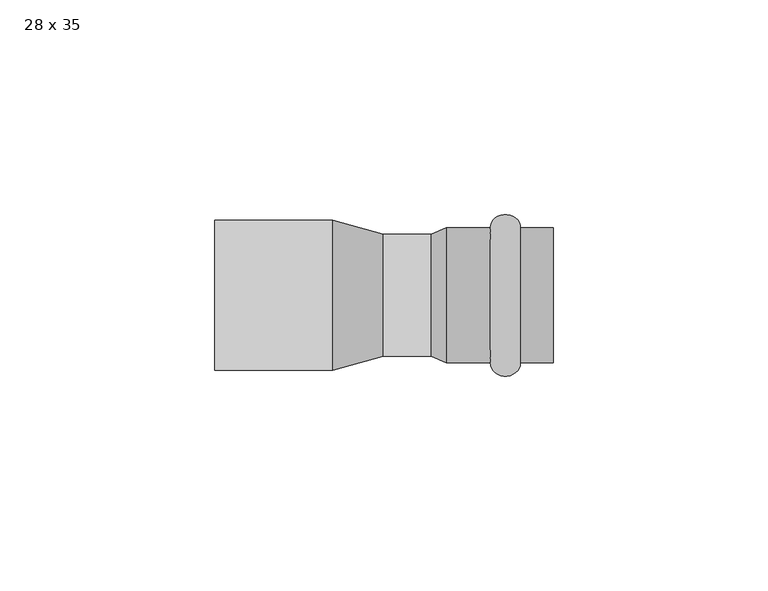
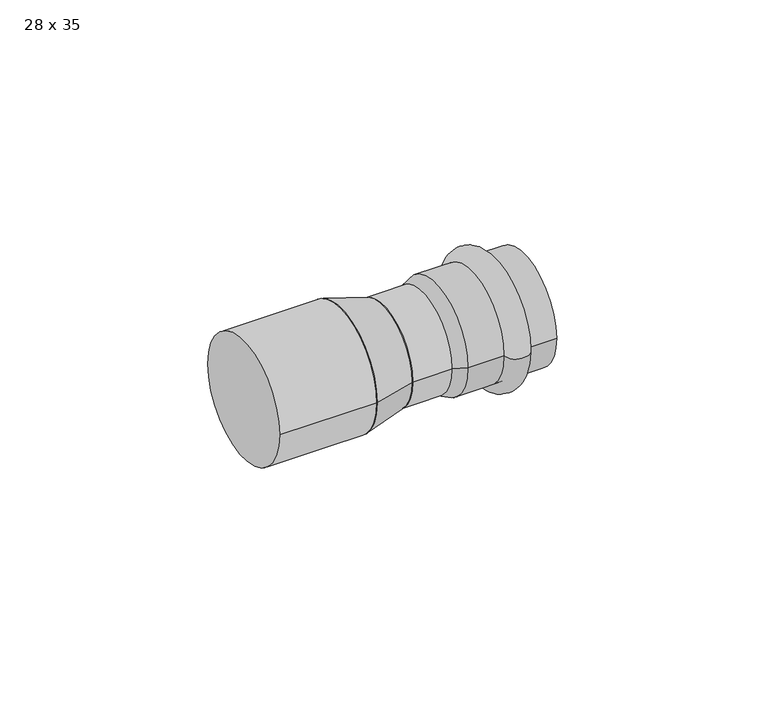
"""IFC4 building model written with IfcOpenShell, lengths in millimetres: pipe fitting geometry, РЕХАУ_Пресс Вставка переходная : 28 x 35."""

from ifc_helpers import new_model, si_unit, point, frame, origin, origin_2d, place, context, project, spatial, polyline, circle_curve, ellipse_curve, trimmed, segment, composite_curve, outline, extrude, source, transform, mapped, element, save
from ifc_brep_helpers import plane_surface, cylinder_surface, revolved_surface, advanced_brep


def pipe_fitting_28_x_35_9a9bd7d2(model_context):
    return source(origin(), model_context, "Body", "SolidModel", [
        advanced_brep(
        [(71.3, 15.75, 0.0), (71.3, -15.75, 0.0), (64.3, -15.75, 0.0), (64.3, 15.75, 0.0)],
        [
            (0, 1, circle_curve(frame((71.3, 0.0, 0.0), z_axis=(1.0, 0.0, 0.0), x_axis=(0.0, -1.0, 0.0)), 15.75)),
            (1, 2),
            (2, 3, circle_curve(frame((64.3, 0.0, 0.0), z_axis=(-1.0, 0.0, 0.0), x_axis=(0.0, -1.0, 0.0)), 15.75)),
            (3, 0),
            (1, 0, circle_curve(frame((71.3, 0.0, 0.0), z_axis=(1.0, 0.0, 0.0), x_axis=(0.0, -1.0, 0.0)), 15.75)),
            (3, 2, circle_curve(frame((64.3, 0.0, 0.0), z_axis=(-1.0, 0.0, 0.0), x_axis=(0.0, -1.0, 0.0)), 15.75)),
            (2, 1, ellipse_curve(frame((67.8, -15.75, 0.0), z_axis=(0.0, 0.0, 1.0), x_axis=(1.0, 0.0, 0.0)), 3.5, 3.1)),
            (0, 3, ellipse_curve(frame((67.8, 15.75, 0.0), z_axis=(0.0, 0.0, 1.0), x_axis=(1.0, 0.0, 0.0)), 3.5, 3.1)),
        ],
        [
            revolved_surface(polyline([(64.3, -15.75, 0.0), (71.3, -15.75, 0.0)]), (51.3, 0.0, 0.0), (-1.0, 0.0, 0.0)),
            revolved_surface(trimmed(ellipse_curve(frame((67.8, -15.75, 0.0), z_axis=(0.0, 0.0, -1.0), x_axis=(1.0, 0.0, 0.0)), 3.5, 3.1), [point((71.3, -15.75, 0.0))], [point((64.3, -15.75, 0.0))], True, "CARTESIAN"), (51.3, 0.0, 0.0), (-1.0, 0.0, 0.0)),
        ],
        [
            (0, [[1, 2, 3, 4]]),
            (0, [[5, -4, 6, -2]]),
            (1, [[-3, 7, -1, 8]]),
            (1, [[-6, -8, -5, -7]]),
        ],
    ),
        advanced_brep(
        [(50.4662215, 14.25, 0.0), (50.4662215, -14.25, 0.0), (54.0, -15.75, 0.0), (54.0, 15.75, 0.0), (79.0, 14.25, 0.0), (79.0, -14.25, 0.0), (79.0, 15.75, 0.0), (79.0, -15.75, 0.0)],
        [
            (0, 1, circle_curve(frame((50.4662215, 0.0, 0.0), z_axis=(1.0, 0.0, 0.0), x_axis=(0.0, -1.0, 0.0)), 14.25)),
            (1, 2),
            (2, 3, circle_curve(frame((54.0, 0.0, 0.0), z_axis=(-1.0, 0.0, 0.0), x_axis=(0.0, -1.0, 0.0)), 15.75)),
            (3, 0),
            (1, 0, circle_curve(frame((50.4662215, 0.0, 0.0), z_axis=(1.0, 0.0, 0.0), x_axis=(0.0, -1.0, 0.0)), 14.25)),
            (3, 2, circle_curve(frame((54.0, 0.0, 0.0), z_axis=(-1.0, 0.0, 0.0), x_axis=(0.0, -1.0, 0.0)), 15.75)),
            (4, 5, circle_curve(frame((79.0, 0.0, 0.0), z_axis=(1.0, 0.0, 0.0), x_axis=(0.0, -1.0, 0.0)), 14.25)),
            (5, 1),
            (0, 4),
            (5, 4, circle_curve(frame((79.0, 0.0, 0.0), z_axis=(1.0, 0.0, 0.0), x_axis=(0.0, -1.0, 0.0)), 14.25)),
            (6, 7, circle_curve(frame((79.0, 0.0, 0.0), z_axis=(1.0, 0.0, 0.0), x_axis=(0.0, -1.0, 0.0)), 15.75)),
            (7, 5),
            (4, 6),
            (7, 6, circle_curve(frame((79.0, 0.0, 0.0), z_axis=(1.0, 0.0, 0.0), x_axis=(0.0, -1.0, 0.0)), 15.75)),
            (2, 7),
            (6, 3),
        ],
        [
            revolved_surface(polyline([(54.0, -15.75, 0.0), (50.4662215, -14.25, 0.0)]), (51.3, 0.0, 0.0), (-1.0, 0.0, 0.0)),
            revolved_surface(polyline([(50.4662215, -14.25, 0.0), (79.0, -14.25, 0.0)]), (51.3, 0.0, 0.0), (-1.0, 0.0, 0.0)),
            plane_surface(frame((79.0, 0.0, 0.0), z_axis=(1.0, 0.0, 0.0), x_axis=(0.0, -1.0, 0.0))),
            cylinder_surface(frame((51.3, 0.0, 0.0), z_axis=(-1.0, 0.0, 0.0), x_axis=(0.0, -1.0, 0.0)), 15.75),
        ],
        [
            (0, [[1, 2, 3, 4]]),
            (0, [[5, -4, 6, -2]]),
            (1, [[7, 8, -1, 9]]),
            (1, [[10, -9, -5, -8]]),
            (2, [[11, 12, -7, 13]]),
            (2, [[14, -13, -10, -12]]),
            (3, [[-3, 15, -11, 16]]),
            (3, [[-6, -16, -14, -15]]),
        ],
    ),
        extrude(outline(composite_curve([segment(trimmed(circle_curve(origin_2d(), 14.25), [point((-14.25, 0.0))], [point((14.25, 0.0))], False, "CARTESIAN"), True, "CONTINUOUS"), segment(trimmed(circle_curve(origin_2d(), 14.25), [point((14.25, 0.0))], [point((-14.25, 0.0))], False, "CARTESIAN"), True, "CONTINUOUS")], self_intersect=False)), frame((39.35, 0.0, 0.0), z_axis=(1.0, 0.0, 0.0), x_axis=(0.0, 1.0, 0.0)), (0.0, 0.0, 1.0), 14.65),
        advanced_brep(
        [(39.35, -14.25, 0.0), (39.35, 14.25, 0.0), (27.5, -17.5, 0.0), (27.5, 17.5, 0.0)],
        [
            (0, 1, circle_curve(frame((39.35, 0.0, 0.0), z_axis=(1.0, 0.0, 0.0), x_axis=(0.0, -1.0, 0.0)), 14.25)),
            (1, 0, circle_curve(frame((39.35, 0.0, 0.0), z_axis=(1.0, 0.0, 0.0), x_axis=(0.0, 1.0, 0.0)), 14.25)),
            (2, 3, circle_curve(frame((27.5, 0.0, 0.0), z_axis=(-1.0, 0.0, 0.0), x_axis=(0.0, 1.0, 0.0)), 17.5)),
            (3, 2, circle_curve(frame((27.5, 0.0, 0.0), z_axis=(-1.0, 0.0, 0.0), x_axis=(0.0, -1.0, 0.0)), 17.5)),
            (3, 1),
            (0, 2),
        ],
        [
            plane_surface(frame((39.35, 0.0, 0.0), z_axis=(1.0, 0.0, 0.0), x_axis=(0.0, 0.0, -1.0))),
            plane_surface(frame((27.5, 0.0, 0.0), z_axis=(-1.0, 0.0, 0.0), x_axis=(0.0, 0.0, -1.0))),
            revolved_surface(polyline([(39.35, -14.249999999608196, 0.0), (27.5, -17.5, 0.0)]), (91.3076923, 0.0, 0.0), (-1.0, 0.0, 0.0)),
            revolved_surface(polyline([(39.35, 14.249999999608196, 0.0), (27.5, 17.5, 0.0)]), (91.3076923, 0.0, 0.0), (-1.0, 0.0, 0.0)),
        ],
        [
            (0, [[1, 2]]),
            (1, [[3, 4]]),
            (2, [[-4, 5, -1, 6]]),
            (3, [[-3, -6, -2, -5]]),
        ],
    ),
        extrude(outline(composite_curve([segment(trimmed(circle_curve(origin_2d(), 17.5), [point((-17.5, 0.0))], [point((17.5, 0.0))], False, "CARTESIAN"), True, "CONTINUOUS"), segment(trimmed(circle_curve(origin_2d(), 17.5), [point((17.5, 0.0))], [point((-17.5, 0.0))], False, "CARTESIAN"), True, "CONTINUOUS")], self_intersect=False)), frame((0.0, 0.0, 0.0), z_axis=(1.0, 0.0, 0.0), x_axis=(0.0, 1.0, 0.0)), (0.0, 0.0, 1.0), 27.5),
    ])


if __name__ == "__main__":
    model = new_model("IFC4")
    model_context = context("Model", 3, world=origin())
    ifc_project = project(units=[si_unit("LENGTHUNIT", "METRE", prefix="MILLI")], contexts=[model_context])
    site = spatial("IfcSite", under=ifc_project)
    building = spatial("IfcBuilding", under=site)
    placement = place(None, origin())
    pipe_fitting_28_x_35_shape = pipe_fitting_28_x_35_9a9bd7d2(model_context)
    element("IfcPipeFitting", 1, ObjectType="РЕХАУ_Пресс Вставка переходная : 28 x 35", at=placement, inside=building, context=model_context, shape_type="MappedRepresentation", body=[
        mapped(pipe_fitting_28_x_35_shape, transform((0.0, 0.0, 0.0), x_axis=(1.0, 0.0, 0.0), y_axis=(0.0, 1.0, 0.0), z_axis=(0.0, 0.0, 1.0))),
    ])
    save(model, "model.ifc")
